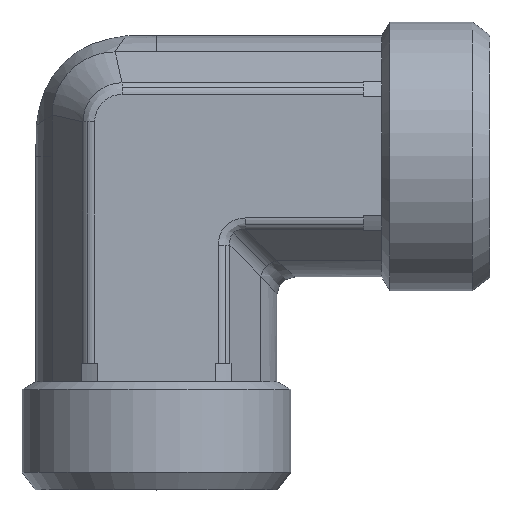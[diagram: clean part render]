
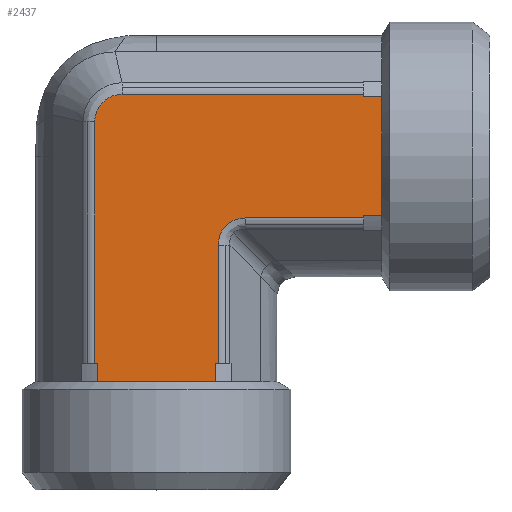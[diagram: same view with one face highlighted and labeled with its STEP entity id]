
A CAD part, top view. The second image highlights one B-rep face of the part: STEP entity #2437.
In plain terms, the highlighted planar face has unit normal (0, 0, 1) as drawn and (0, -1, 0) by its records, which use the part's own axes.
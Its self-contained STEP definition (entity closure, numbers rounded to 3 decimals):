
#361=CARTESIAN_POINT('',(5.387,-13.375,6.856));
#362=VERTEX_POINT('',#361);
#370=CARTESIAN_POINT('',(18.5,-13.375,6.856));
#371=VERTEX_POINT('',#370);
#372=CARTESIAN_POINT('',(5.387,-13.375,6.856));
#373=DIRECTION('',(1.0,0.0,0.0));
#374=VECTOR('',#373,13.113);
#375=LINE('',#372,#374);
#376=EDGE_CURVE('',#362,#371,#375,.T.);
#485=CARTESIAN_POINT('',(-11.356,-13.375,-3.819));
#486=VERTEX_POINT('',#485);
#494=CARTESIAN_POINT('',(-11.356,-13.375,23.));
#495=VERTEX_POINT('',#494);
#496=CARTESIAN_POINT('',(-11.356,-13.375,-3.819));
#497=DIRECTION('',(0.0,0.0,1.0));
#498=VECTOR('',#497,26.819);
#499=LINE('',#496,#498);
#500=EDGE_CURVE('',#486,#495,#499,.T.);
#692=CARTESIAN_POINT('',(20.5,-13.375,0.));
#693=VERTEX_POINT('',#692);
#1883=CARTESIAN_POINT('',(2.356,-13.375,23.));
#1884=VERTEX_POINT('',#1883);
#1885=CARTESIAN_POINT('',(2.089,-13.375,23.));
#1886=VERTEX_POINT('',#1885);
#1887=CARTESIAN_POINT('',(2.356,-13.375,23.));
#1888=DIRECTION('',(-1.0,0.0,0.0));
#1889=VECTOR('',#1888,0.267);
#1890=LINE('',#1887,#1889);
#1891=EDGE_CURVE('',#1884,#1886,#1890,.T.);
#1942=CARTESIAN_POINT('',(-11.089,-13.375,23.));
#1943=VERTEX_POINT('',#1942);
#1944=CARTESIAN_POINT('',(-11.089,-13.375,23.));
#1945=DIRECTION('',(-1.0,0.0,0.0));
#1946=VECTOR('',#1945,0.267);
#1947=LINE('',#1944,#1946);
#1948=EDGE_CURVE('',#1943,#495,#1947,.T.);
#2006=CARTESIAN_POINT('',(-11.089,-13.375,25.0));
#2007=VERTEX_POINT('',#2006);
#2008=CARTESIAN_POINT('',(-11.089,-13.375,25.0));
#2009=DIRECTION('',(0.0,0.0,-1.0));
#2010=VECTOR('',#2009,2.);
#2011=LINE('',#2008,#2010);
#2012=EDGE_CURVE('',#2007,#1943,#2011,.T.);
#2029=CARTESIAN_POINT('',(2.089,-13.375,25.0));
#2030=VERTEX_POINT('',#2029);
#2031=CARTESIAN_POINT('',(2.089,-13.375,23.));
#2032=DIRECTION('',(0.0,0.0,1.0));
#2033=VECTOR('',#2032,2.);
#2034=LINE('',#2031,#2033);
#2035=EDGE_CURVE('',#1886,#2030,#2034,.T.);
#2311=CARTESIAN_POINT('',(-4.5,-13.375,25.0));
#2312=VERTEX_POINT('',#2311);
#2313=CARTESIAN_POINT('',(-4.5,-13.375,25.0));
#2314=DIRECTION('',(-1.0,0.0,0.0));
#2315=VECTOR('',#2314,6.589);
#2316=LINE('',#2313,#2315);
#2317=EDGE_CURVE('',#2312,#2007,#2316,.T.);
#2335=CARTESIAN_POINT('',(-4.5,-13.375,-3.175));
#2336=DIRECTION('',(0.0,-1.0,0.0));
#2337=DIRECTION('',(0.0,0.0,-1.0));
#2338=AXIS2_PLACEMENT_3D('',#2335,#2336,#2337);
#2339=PLANE('',#2338);
#2340=ORIENTED_EDGE('',*,*,#2012,.T.);
#2341=ORIENTED_EDGE('',*,*,#1948,.T.);
#2342=ORIENTED_EDGE('',*,*,#500,.F.);
#2343=CARTESIAN_POINT('',(-8.319,-13.375,-6.856));
#2344=VERTEX_POINT('',#2343);
#2345=CARTESIAN_POINT('',(-11.356,-13.375,-3.819));
#2346=CARTESIAN_POINT('',(-11.356,-13.375,-4.016));
#2347=CARTESIAN_POINT('',(-11.336,-13.375,-4.216));
#2348=CARTESIAN_POINT('',(-11.235,-13.375,-4.725));
#2349=CARTESIAN_POINT('',(-11.123,-13.375,-5.025));
#2350=CARTESIAN_POINT('',(-10.717,-13.375,-5.748));
#2351=CARTESIAN_POINT('',(-10.355,-13.375,-6.127));
#2352=CARTESIAN_POINT('',(-9.441,-13.375,-6.697));
#2353=CARTESIAN_POINT('',(-8.88,-13.375,-6.856));
#2354=CARTESIAN_POINT('',(-8.319,-13.375,-6.856));
#2355=B_SPLINE_CURVE_WITH_KNOTS('',3,(#2345,#2346,#2347,#2348,#2349,#2350,#2351,#2352,#2353,#2354),.UNSPECIFIED.,.F.,.U.,(4,2,2,2,4),(-4.746,-4.152,-3.203,-1.685,0.0),.UNSPECIFIED.);
#2356=EDGE_CURVE('',#2344,#486,#2355,.F.);
#2357=ORIENTED_EDGE('',*,*,#2356,.F.);
#2358=CARTESIAN_POINT('',(18.5,-13.375,-6.856));
#2359=VERTEX_POINT('',#2358);
#2360=CARTESIAN_POINT('',(18.5,-13.375,-6.856));
#2361=DIRECTION('',(-1.0,0.0,0.0));
#2362=VECTOR('',#2361,26.819);
#2363=LINE('',#2360,#2362);
#2364=EDGE_CURVE('',#2359,#2344,#2363,.T.);
#2365=ORIENTED_EDGE('',*,*,#2364,.F.);
#2366=CARTESIAN_POINT('',(18.5,-13.375,-6.589));
#2367=VERTEX_POINT('',#2366);
#2368=CARTESIAN_POINT('',(18.5,-13.375,-6.856));
#2369=DIRECTION('',(0.0,0.0,1.0));
#2370=VECTOR('',#2369,0.267);
#2371=LINE('',#2368,#2370);
#2372=EDGE_CURVE('',#2359,#2367,#2371,.T.);
#2373=ORIENTED_EDGE('',*,*,#2372,.T.);
#2374=CARTESIAN_POINT('',(20.5,-13.375,-6.589));
#2375=VERTEX_POINT('',#2374);
#2376=CARTESIAN_POINT('',(18.5,-13.375,-6.589));
#2377=DIRECTION('',(1.0,0.0,0.0));
#2378=VECTOR('',#2377,2.);
#2379=LINE('',#2376,#2378);
#2380=EDGE_CURVE('',#2367,#2375,#2379,.T.);
#2381=ORIENTED_EDGE('',*,*,#2380,.T.);
#2382=CARTESIAN_POINT('',(20.5,-13.375,-6.589));
#2383=DIRECTION('',(0.0,0.0,1.0));
#2384=VECTOR('',#2383,6.589);
#2385=LINE('',#2382,#2384);
#2386=EDGE_CURVE('',#2375,#693,#2385,.T.);
#2387=ORIENTED_EDGE('',*,*,#2386,.T.);
#2388=CARTESIAN_POINT('',(20.5,-13.375,6.589));
#2389=VERTEX_POINT('',#2388);
#2390=CARTESIAN_POINT('',(20.5,-13.375,0.));
#2391=DIRECTION('',(0.0,0.0,1.0));
#2392=VECTOR('',#2391,6.589);
#2393=LINE('',#2390,#2392);
#2394=EDGE_CURVE('',#693,#2389,#2393,.T.);
#2395=ORIENTED_EDGE('',*,*,#2394,.T.);
#2396=CARTESIAN_POINT('',(18.5,-13.375,6.589));
#2397=VERTEX_POINT('',#2396);
#2398=CARTESIAN_POINT('',(20.5,-13.375,6.589));
#2399=DIRECTION('',(-1.0,0.0,0.0));
#2400=VECTOR('',#2399,2.);
#2401=LINE('',#2398,#2400);
#2402=EDGE_CURVE('',#2389,#2397,#2401,.T.);
#2403=ORIENTED_EDGE('',*,*,#2402,.T.);
#2404=CARTESIAN_POINT('',(18.5,-13.375,6.589));
#2405=DIRECTION('',(0.0,0.0,1.0));
#2406=VECTOR('',#2405,0.267);
#2407=LINE('',#2404,#2406);
#2408=EDGE_CURVE('',#2397,#371,#2407,.T.);
#2409=ORIENTED_EDGE('',*,*,#2408,.T.);
#2410=ORIENTED_EDGE('',*,*,#376,.F.);
#2411=CARTESIAN_POINT('',(2.356,-13.375,9.887));
#2412=VERTEX_POINT('',#2411);
#2413=CARTESIAN_POINT('',(6.397,-13.375,10.897));
#2414=DIRECTION('',(0.,-1.0,0.));
#2415=DIRECTION('',(-0.707,0.,-0.707));
#2416=AXIS2_PLACEMENT_3D('',#2413,#2414,#2415);
#2417=ELLIPSE('',#2416,4.518,3.5);
#2418=EDGE_CURVE('',#2412,#362,#2417,.T.);
#2419=ORIENTED_EDGE('',*,*,#2418,.F.);
#2420=CARTESIAN_POINT('',(2.356,-13.375,23.));
#2421=DIRECTION('',(0.0,0.0,-1.0));
#2422=VECTOR('',#2421,13.113);
#2423=LINE('',#2420,#2422);
#2424=EDGE_CURVE('',#1884,#2412,#2423,.T.);
#2425=ORIENTED_EDGE('',*,*,#2424,.F.);
#2426=ORIENTED_EDGE('',*,*,#1891,.T.);
#2427=ORIENTED_EDGE('',*,*,#2035,.T.);
#2428=CARTESIAN_POINT('',(2.089,-13.375,25.0));
#2429=DIRECTION('',(-1.0,0.0,0.0));
#2430=VECTOR('',#2429,6.589);
#2431=LINE('',#2428,#2430);
#2432=EDGE_CURVE('',#2030,#2312,#2431,.T.);
#2433=ORIENTED_EDGE('',*,*,#2432,.T.);
#2434=ORIENTED_EDGE('',*,*,#2317,.T.);
#2435=EDGE_LOOP('',(#2340,#2341,#2342,#2357,#2365,#2373,#2381,#2387,#2395,#2403,#2409,#2410,#2419,#2425,#2426,#2427,#2433,#2434));
#2436=FACE_OUTER_BOUND('',#2435,.T.);
#2437=ADVANCED_FACE('',(#2436),#2339,.T.);
